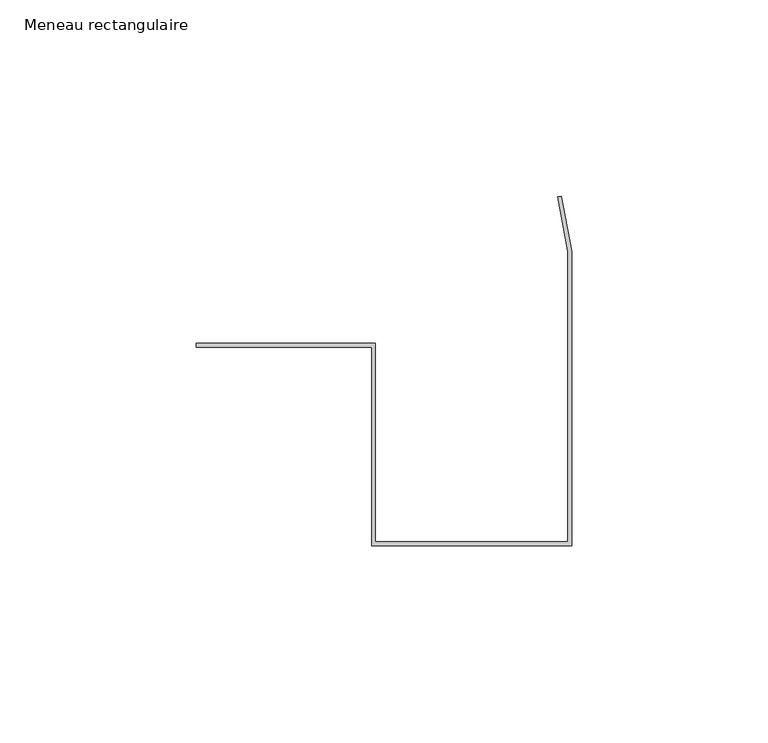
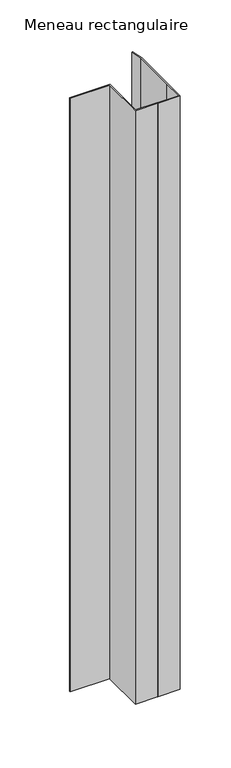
"""IFC4 building model written with IfcOpenShell, lengths in millimetres: member geometry, Meneau rectangulaire : Jonction contre mur Gauche H."""

import ifcopenshell
import ifcopenshell.guid

model = None  # the IFC model being written
_history = None  # IfcOwnerHistory: only IFC2X3 demands one
_inside = {}  # id of a spatial element -> (the spatial element, [elements in it])
_under = {}  # id of a project, library or spatial element -> (it, [spatial elements below it])
_declared = {}  # id of a project -> (the project, [libraries it declares])
_typed = {}  # id of a type object -> (the type object, [elements of that type])
_made_of = {}  # id of a material, layer set ... -> (it, [elements and type objects made of it])


def new_model(schema):
    """Start an empty IFC model of exactly this schema.

    Asked for "IFC4X3", IfcOpenShell would pick the latest addendum, in which some entities
    have other attributes; the version numbers below select the first issue.
    IFC2X3 requires an IfcOwnerHistory on every rooted entity: one is made here for all.
    """
    global model, _history
    if schema == "IFC4X3":
        model = ifcopenshell.file(schema_version=(4, 3, 0, 0))
    else:
        model = ifcopenshell.file(schema=schema)
    _inside.clear()
    _under.clear()
    _declared.clear()
    _typed.clear()
    _made_of.clear()
    _history = None
    if model.schema == "IFC2X3":
        org = make("IfcOrganization", Name="unknown")
        user = make(
            "IfcPersonAndOrganization",
            ThePerson=make("IfcPerson", FamilyName="unknown"),
            TheOrganization=org,
        )
        app = make(
            "IfcApplication",
            ApplicationDeveloper=org,
            Version="unknown",
            ApplicationFullName="unknown",
            ApplicationIdentifier="unknown",
        )
        _history = make(
            "IfcOwnerHistory",
            OwningUser=user,
            OwningApplication=app,
            ChangeAction="ADDED",
            CreationDate=0,
        )
    return model


def make(cls, **values):
    """One entity of the class cls with the attributes given. An attribute that is None is left unset."""
    return model.create_entity(
        cls, **{name: value for name, value in values.items() if value is not None}
    )


def rooted(cls, **values):
    """An entity with a GlobalId (a new one), such as an element, a storey or a relation."""
    return make(cls, GlobalId=ifcopenshell.guid.new(), OwnerHistory=_history, **values)


def si_unit(unit_type, name, prefix=None):
    """IfcSIUnit, for example si_unit("LENGTHUNIT", "METRE", prefix="MILLI")."""
    return make("IfcSIUnit", UnitType=unit_type, Prefix=prefix, Name=name)


def assignment(units):
    """IfcUnitAssignment: the units of a project."""
    return None if units is None else make("IfcUnitAssignment", Units=units)


def point(xyz):
    """IfcCartesianPoint."""
    return None if xyz is None else make("IfcCartesianPoint", Coordinates=xyz)


def direction(xyz):
    """IfcDirection."""
    return None if xyz is None else make("IfcDirection", DirectionRatios=xyz)


def frame(location, z_axis=None, x_axis=None):
    """IfcAxis2Placement3D, a coordinate frame: its origin and axes. An axis left out is left unset."""
    return make(
        "IfcAxis2Placement3D",
        Location=point(location),
        Axis=direction(z_axis),
        RefDirection=direction(x_axis),
    )


def origin():
    """The frame at (0, 0, 0) with its axes left unset."""
    return frame((0.0, 0.0, 0.0))


def place(relative_to, where):
    """IfcLocalPlacement: puts the frame where relative to a parent placement (None: the world)."""
    return make(
        "IfcLocalPlacement", PlacementRelTo=relative_to, RelativePlacement=where
    )


def context(
    kind, dimensions, precision=None, world=None, true_north=None, identifier=None
):
    """IfcGeometricRepresentationContext, for example the 3D "Model" context."""
    return make(
        "IfcGeometricRepresentationContext",
        ContextIdentifier=identifier,
        ContextType=kind,
        CoordinateSpaceDimension=dimensions,
        Precision=precision,
        WorldCoordinateSystem=world,
        TrueNorth=true_north,
    )


def project(units=None, contexts=None):
    """IfcProject with its units and contexts."""
    return rooted(
        "IfcProject",
        Name="project",
        RepresentationContexts=contexts,
        UnitsInContext=assignment(units),
    )


def spatial(cls, under=None, at=None, **own):
    """A site, building, storey or space (cls), placed at a placement, below another one or the project."""
    s = rooted(cls, ObjectPlacement=at, **own)
    if under is not None:
        _under.setdefault(under.id(), (under, []))[1].append(s)
    return s


def polyline(points):
    """IfcPolyline through the points."""
    return make("IfcPolyline", Points=[point(p) for p in points])


def outline(outer, holes=None, kind="AREA"):
    """IfcArbitraryClosedProfileDef: a profile drawn as a closed curve; with holes, ...WithVoids."""
    if holes is None:
        return make("IfcArbitraryClosedProfileDef", ProfileType=kind, OuterCurve=outer)
    return make(
        "IfcArbitraryProfileDefWithVoids",
        ProfileType=kind,
        OuterCurve=outer,
        InnerCurves=holes,
    )


def extrude(swept, where, along, depth):
    """IfcExtrudedAreaSolid: the profile swept, set in the frame where, extruded along a direction by depth."""
    return make(
        "IfcExtrudedAreaSolid",
        SweptArea=swept,
        Position=where,
        ExtrudedDirection=direction(along),
        Depth=depth,
    )


def shape(context_of_items, identifier, shape_type, items):
    """IfcShapeRepresentation: the items that make up one representation, for example the "Body"."""
    return make(
        "IfcShapeRepresentation",
        ContextOfItems=context_of_items,
        RepresentationIdentifier=identifier,
        RepresentationType=shape_type,
        Items=items,
    )


def source(mapping_origin, context_of_items, identifier, shape_type, items):
    """IfcRepresentationMap: a shape defined once, which mapped items show again and again."""
    return make(
        "IfcRepresentationMap",
        MappingOrigin=mapping_origin,
        MappedRepresentation=shape(context_of_items, identifier, shape_type, items),
    )


def transform(
    local_origin,
    x_axis=None,
    y_axis=None,
    z_axis=None,
    scale=None,
    scale2=None,
    scale3=None,
    uniform=True,
):
    """IfcCartesianTransformationOperator3D, or its non-uniform kind. x_axis, y_axis, z_axis: its Axis1, 2, 3."""
    if uniform:
        return make(
            "IfcCartesianTransformationOperator3D",
            Axis1=direction(x_axis),
            Axis2=direction(y_axis),
            LocalOrigin=point(local_origin),
            Scale=scale,
            Axis3=direction(z_axis),
        )
    return make(
        "IfcCartesianTransformationOperator3DnonUniform",
        Axis1=direction(x_axis),
        Axis2=direction(y_axis),
        LocalOrigin=point(local_origin),
        Scale=scale,
        Axis3=direction(z_axis),
        Scale2=scale2,
        Scale3=scale3,
    )


def mapped(mapping_source, mapping_target):
    """IfcMappedItem: shows the shape of a source again, moved by a transform."""
    return make(
        "IfcMappedItem", MappingSource=mapping_source, MappingTarget=mapping_target
    )


def made_of(thing, what):
    """Note that an element or type object is made of a material, layer set ...; save() writes the relation."""
    if what is not None:
        _made_of.setdefault(what.id(), (what, []))[1].append(thing)
    return thing


def element(
    cls,
    number,
    at=None,
    inside=None,
    cuts=None,
    type_object=None,
    material=None,
    context=None,
    identifier="Body",
    shape_type=None,
    held_by="IfcProductDefinitionShape",
    body=None,
    shapes=None,
    **own,
):
    """One element of the class cls, such as IfcWall. Its Tag is "e" and its number.

    at: its placement. inside: the storey or other place that contains it. cuts: it is an
    opening in that element (IfcRelVoidsElement). A single representation is given by context,
    identifier, shape_type and body (its items); several are given by shapes. held_by: the class
    of the entity that holds the representations. save() writes the other relations.
    """
    e = rooted(cls, Tag="e%d" % number, ObjectPlacement=at, **own)
    if body is not None:
        shapes = [shape(context, identifier, shape_type, body)]
    if shapes is not None:
        e.Representation = make(held_by, Representations=shapes)
    if inside is not None:
        _inside.setdefault(inside.id(), (inside, []))[1].append(e)
    if cuts is not None:
        rooted(
            "IfcRelVoidsElement", RelatingBuildingElement=cuts, RelatedOpeningElement=e
        )
    if type_object is not None:
        _typed.setdefault(type_object.id(), (type_object, []))[1].append(e)
    return made_of(e, material)


def aggregate(whole, parts):
    """IfcRelAggregates: a whole, such as a stair, and the parts it consists of."""
    return rooted("IfcRelAggregates", RelatingObject=whole, RelatedObjects=parts)


def save(model, path):
    """Write the relations noted so far, then the file.

    IfcRelAggregates (storeys below a building ...), IfcRelContainedInSpatialStructure (elements
    in a storey), IfcRelDefinesByType, IfcRelAssociatesMaterial and IfcRelDeclares: one each for
    every whole, place, type object, material and project.
    """
    for whole, parts in _under.values():
        aggregate(whole, parts)
    for where, things in _inside.values():
        rooted(
            "IfcRelContainedInSpatialStructure",
            RelatedElements=things,
            RelatingStructure=where,
        )
    for kind, things in _typed.values():
        rooted("IfcRelDefinesByType", RelatedObjects=things, RelatingType=kind)
    for what, things in _made_of.values():
        rooted("IfcRelAssociatesMaterial", RelatedObjects=things, RelatingMaterial=what)
    for by, libraries in _declared.values():
        rooted("IfcRelDeclares", RelatingContext=by, RelatedDefinitions=libraries)
    model.write(path)


def meneau_rectangulaire_4563ac0a(model_context):
    return source(origin(), model_context, "Body", "SweptSolid", [
        extrude(outline(polyline([(-1.0, 26.3950161), (-3.6043568, 40.2612876), (-2.6384309, 40.4427073), (0.0, 26.3950161), (0.0, -23.6049839), (0.0, -48.6049839), (-25.0, -48.6049839), (-26.0, -48.6049839), (-51.0, -48.6049839), (-51.0, 2.0), (-95.6686418, 2.0), (-95.6686418, 3.0), (-50.0, 3.0), (-50.0, -47.6049839), (-26.0, -47.6049839), (-25.0, -47.6049839), (-1.0, -47.6049839), (-1.0, -23.6049839), (-1.0, 26.3950161)])), frame((0.0, 0.0, -712.0), z_axis=(0.0, 0.0, 1.0), x_axis=(1.0, 0.0, 0.0)), (0.0, 0.0, 1.0), 712.0),
    ])


if __name__ == "__main__":
    model = new_model("IFC4")
    model_context = context("Model", 3, world=origin())
    ifc_project = project(units=[si_unit("LENGTHUNIT", "METRE", prefix="MILLI")], contexts=[model_context])
    site = spatial("IfcSite", under=ifc_project)
    building = spatial("IfcBuilding", under=site)
    placement = place(None, origin())
    meneau_rectangulaire_shape = meneau_rectangulaire_4563ac0a(model_context)
    element("IfcMember", 1, ObjectType="Meneau rectangulaire : Jonction contre mur Gauche H", at=placement, inside=building, context=model_context, shape_type="MappedRepresentation", body=[
        mapped(meneau_rectangulaire_shape, transform((0.0, 0.0, 0.0), x_axis=(1.0, 0.0, 0.0), y_axis=(0.0, 1.0, 0.0), z_axis=(0.0, 0.0, 1.0))),
    ])
    save(model, "model.ifc")
